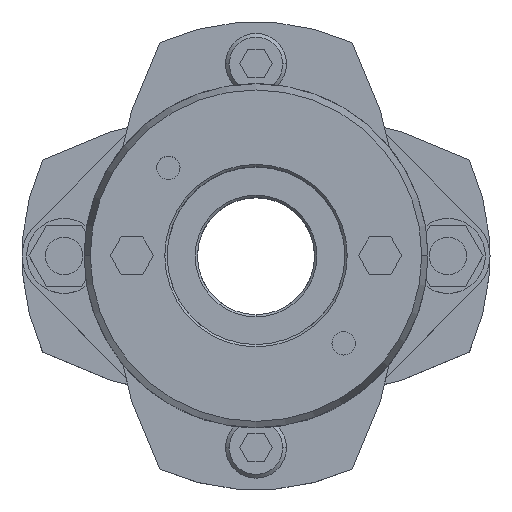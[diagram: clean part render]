
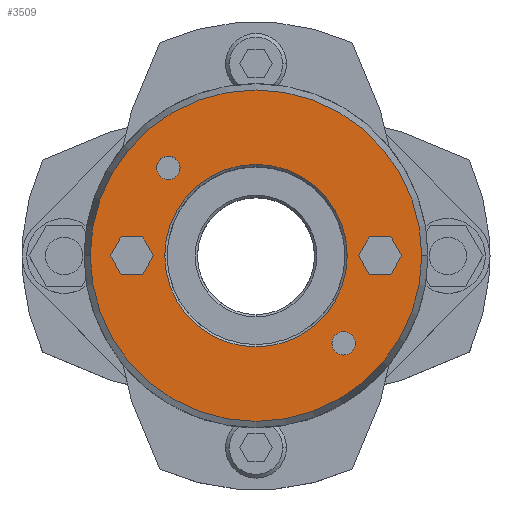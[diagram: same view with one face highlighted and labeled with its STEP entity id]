
A CAD part, top view. The second image highlights one B-rep face of the part: STEP entity #3509.
In plain terms, the highlighted planar face has unit normal (0, 0, 1).
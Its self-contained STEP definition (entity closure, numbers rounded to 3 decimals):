
#1471=CARTESIAN_POINT('',(-19.5,0.,42.0));
#1472=VERTEX_POINT('',#1471);
#1488=CARTESIAN_POINT('',(19.5,0.,42.0));
#1489=VERTEX_POINT('',#1488);
#1496=CARTESIAN_POINT('',(0.,0.,42.0));
#1497=DIRECTION('',(0.0,0.0,1.0));
#1498=DIRECTION('',(-1.0,0.0,0.0));
#1499=AXIS2_PLACEMENT_3D('',#1496,#1497,#1498);
#1500=CIRCLE('',#1499,19.5);
#1501=EDGE_CURVE('',#1489,#1472,#1500,.T.);
#1617=CARTESIAN_POINT('',(35.41,0.,42.0));
#1618=VERTEX_POINT('',#1617);
#1627=CARTESIAN_POINT('',(-35.41,0.,42.0));
#1628=VERTEX_POINT('',#1627);
#1629=CARTESIAN_POINT('',(0.,0.,42.0));
#1630=DIRECTION('',(0.0,0.0,-1.0));
#1631=DIRECTION('',(1.0,0.0,0.0));
#1632=AXIS2_PLACEMENT_3D('',#1629,#1630,#1631);
#1633=CIRCLE('',#1632,35.41);
#1634=EDGE_CURVE('',#1618,#1628,#1633,.T.);
#1803=CARTESIAN_POINT('',(-21.238,18.738,42.0));
#1804=VERTEX_POINT('',#1803);
#1820=CARTESIAN_POINT('',(-16.238,18.738,42.0));
#1821=VERTEX_POINT('',#1820);
#1828=CARTESIAN_POINT('',(-18.738,18.738,42.0));
#1829=DIRECTION('',(0.0,0.0,-1.0));
#1830=DIRECTION('',(-1.0,0.0,0.0));
#1831=AXIS2_PLACEMENT_3D('',#1828,#1829,#1830);
#1832=CIRCLE('',#1831,2.5);
#1833=EDGE_CURVE('',#1804,#1821,#1832,.T.);
#1845=CARTESIAN_POINT('',(16.238,-18.738,42.0));
#1846=VERTEX_POINT('',#1845);
#1862=CARTESIAN_POINT('',(21.238,-18.738,42.0));
#1863=VERTEX_POINT('',#1862);
#1870=CARTESIAN_POINT('',(18.738,-18.738,42.0));
#1871=DIRECTION('',(0.0,0.0,-1.0));
#1872=DIRECTION('',(-1.0,0.0,0.0));
#1873=AXIS2_PLACEMENT_3D('',#1870,#1871,#1872);
#1874=CIRCLE('',#1873,2.5);
#1875=EDGE_CURVE('',#1846,#1863,#1874,.T.);
#2635=CARTESIAN_POINT('',(21.881,0.,42.0));
#2636=VERTEX_POINT('',#2635);
#2643=CARTESIAN_POINT('',(24.191,-4.,42.0));
#2644=VERTEX_POINT('',#2643);
#2645=CARTESIAN_POINT('',(24.191,-4.,42.0));
#2646=DIRECTION('',(-0.5,0.866,0.0));
#2647=VECTOR('',#2646,4.619);
#2648=LINE('',#2645,#2647);
#2649=EDGE_CURVE('',#2644,#2636,#2648,.T.);
#2673=CARTESIAN_POINT('',(24.191,4.,42.0));
#2674=VERTEX_POINT('',#2673);
#2681=CARTESIAN_POINT('',(21.881,0.,42.0));
#2682=DIRECTION('',(0.5,0.866,0.0));
#2683=VECTOR('',#2682,4.619);
#2684=LINE('',#2681,#2683);
#2685=EDGE_CURVE('',#2636,#2674,#2684,.T.);
#2704=CARTESIAN_POINT('',(28.809,4.,42.0));
#2705=VERTEX_POINT('',#2704);
#2712=CARTESIAN_POINT('',(24.191,4.,42.0));
#2713=DIRECTION('',(1.0,0.0,0.0));
#2714=VECTOR('',#2713,4.619);
#2715=LINE('',#2712,#2714);
#2716=EDGE_CURVE('',#2674,#2705,#2715,.T.);
#2735=CARTESIAN_POINT('',(31.119,0.,42.0));
#2736=VERTEX_POINT('',#2735);
#2743=CARTESIAN_POINT('',(28.809,4.,42.0));
#2744=DIRECTION('',(0.5,-0.866,0.0));
#2745=VECTOR('',#2744,4.619);
#2746=LINE('',#2743,#2745);
#2747=EDGE_CURVE('',#2705,#2736,#2746,.T.);
#2766=CARTESIAN_POINT('',(28.809,-4.,42.0));
#2767=VERTEX_POINT('',#2766);
#2774=CARTESIAN_POINT('',(31.119,0.,42.0));
#2775=DIRECTION('',(-0.5,-0.866,0.0));
#2776=VECTOR('',#2775,4.619);
#2777=LINE('',#2774,#2776);
#2778=EDGE_CURVE('',#2736,#2767,#2777,.T.);
#2796=CARTESIAN_POINT('',(28.809,-4.,42.0));
#2797=DIRECTION('',(-1.0,0.0,0.0));
#2798=VECTOR('',#2797,4.619);
#2799=LINE('',#2796,#2798);
#2800=EDGE_CURVE('',#2767,#2644,#2799,.T.);
#2835=CARTESIAN_POINT('',(-31.119,0.,42.0));
#2836=VERTEX_POINT('',#2835);
#2843=CARTESIAN_POINT('',(-28.809,-4.,42.0));
#2844=VERTEX_POINT('',#2843);
#2845=CARTESIAN_POINT('',(-28.809,-4.,42.0));
#2846=DIRECTION('',(-0.5,0.866,0.0));
#2847=VECTOR('',#2846,4.619);
#2848=LINE('',#2845,#2847);
#2849=EDGE_CURVE('',#2844,#2836,#2848,.T.);
#2873=CARTESIAN_POINT('',(-28.809,4.,42.0));
#2874=VERTEX_POINT('',#2873);
#2881=CARTESIAN_POINT('',(-31.119,0.,42.0));
#2882=DIRECTION('',(0.5,0.866,0.0));
#2883=VECTOR('',#2882,4.619);
#2884=LINE('',#2881,#2883);
#2885=EDGE_CURVE('',#2836,#2874,#2884,.T.);
#2904=CARTESIAN_POINT('',(-24.191,4.,42.0));
#2905=VERTEX_POINT('',#2904);
#2912=CARTESIAN_POINT('',(-28.809,4.,42.0));
#2913=DIRECTION('',(1.0,0.0,0.0));
#2914=VECTOR('',#2913,4.619);
#2915=LINE('',#2912,#2914);
#2916=EDGE_CURVE('',#2874,#2905,#2915,.T.);
#2935=CARTESIAN_POINT('',(-21.881,0.,42.0));
#2936=VERTEX_POINT('',#2935);
#2943=CARTESIAN_POINT('',(-24.191,4.,42.0));
#2944=DIRECTION('',(0.5,-0.866,0.0));
#2945=VECTOR('',#2944,4.619);
#2946=LINE('',#2943,#2945);
#2947=EDGE_CURVE('',#2905,#2936,#2946,.T.);
#2966=CARTESIAN_POINT('',(-24.191,-4.,42.0));
#2967=VERTEX_POINT('',#2966);
#2974=CARTESIAN_POINT('',(-21.881,0.,42.0));
#2975=DIRECTION('',(-0.5,-0.866,0.0));
#2976=VECTOR('',#2975,4.619);
#2977=LINE('',#2974,#2976);
#2978=EDGE_CURVE('',#2936,#2967,#2977,.T.);
#2996=CARTESIAN_POINT('',(-24.191,-4.,42.0));
#2997=DIRECTION('',(-1.0,0.0,0.0));
#2998=VECTOR('',#2997,4.619);
#2999=LINE('',#2996,#2998);
#3000=EDGE_CURVE('',#2967,#2844,#2999,.T.);
#3026=CARTESIAN_POINT('',(18.738,-18.738,42.0));
#3027=DIRECTION('',(0.0,0.0,-1.0));
#3028=DIRECTION('',(-1.0,0.0,0.0));
#3029=AXIS2_PLACEMENT_3D('',#3026,#3027,#3028);
#3030=CIRCLE('',#3029,2.5);
#3031=EDGE_CURVE('',#1863,#1846,#3030,.T.);
#3060=CARTESIAN_POINT('',(-18.738,18.738,42.0));
#3061=DIRECTION('',(0.0,0.0,-1.0));
#3062=DIRECTION('',(-1.0,0.0,0.0));
#3063=AXIS2_PLACEMENT_3D('',#3060,#3061,#3062);
#3064=CIRCLE('',#3063,2.5);
#3065=EDGE_CURVE('',#1821,#1804,#3064,.T.);
#3456=CARTESIAN_POINT('',(0.,0.,42.0));
#3457=DIRECTION('',(0.0,0.0,-1.0));
#3458=DIRECTION('',(1.0,0.0,0.0));
#3459=AXIS2_PLACEMENT_3D('',#3456,#3457,#3458);
#3460=CIRCLE('',#3459,35.41);
#3461=EDGE_CURVE('',#1628,#1618,#3460,.T.);
#3466=CARTESIAN_POINT('',(-3.341,0.,42.0));
#3467=DIRECTION('',(0.0,0.0,1.0));
#3468=DIRECTION('',(-1.0,0.0,0.0));
#3469=AXIS2_PLACEMENT_3D('',#3466,#3467,#3468);
#3470=PLANE('',#3469);
#3471=ORIENTED_EDGE('',*,*,#3461,.F.);
#3472=ORIENTED_EDGE('',*,*,#1634,.F.);
#3473=EDGE_LOOP('',(#3471,#3472));
#3474=FACE_OUTER_BOUND('',#3473,.T.);
#3475=ORIENTED_EDGE('',*,*,#2649,.T.);
#3476=ORIENTED_EDGE('',*,*,#2685,.T.);
#3477=ORIENTED_EDGE('',*,*,#2716,.T.);
#3478=ORIENTED_EDGE('',*,*,#2747,.T.);
#3479=ORIENTED_EDGE('',*,*,#2778,.T.);
#3480=ORIENTED_EDGE('',*,*,#2800,.T.);
#3481=EDGE_LOOP('',(#3475,#3476,#3477,#3478,#3479,#3480));
#3482=FACE_BOUND('',#3481,.T.);
#3483=ORIENTED_EDGE('',*,*,#2849,.T.);
#3484=ORIENTED_EDGE('',*,*,#2885,.T.);
#3485=ORIENTED_EDGE('',*,*,#2916,.T.);
#3486=ORIENTED_EDGE('',*,*,#2947,.T.);
#3487=ORIENTED_EDGE('',*,*,#2978,.T.);
#3488=ORIENTED_EDGE('',*,*,#3000,.T.);
#3489=EDGE_LOOP('',(#3483,#3484,#3485,#3486,#3487,#3488));
#3490=FACE_BOUND('',#3489,.T.);
#3491=ORIENTED_EDGE('',*,*,#1875,.T.);
#3492=ORIENTED_EDGE('',*,*,#3031,.T.);
#3493=EDGE_LOOP('',(#3491,#3492));
#3494=FACE_BOUND('',#3493,.T.);
#3495=ORIENTED_EDGE('',*,*,#1833,.T.);
#3496=ORIENTED_EDGE('',*,*,#3065,.T.);
#3497=EDGE_LOOP('',(#3495,#3496));
#3498=FACE_BOUND('',#3497,.T.);
#3499=ORIENTED_EDGE('',*,*,#1501,.F.);
#3500=CARTESIAN_POINT('',(0.,0.,42.0));
#3501=DIRECTION('',(0.0,0.0,1.0));
#3502=DIRECTION('',(-1.0,0.0,0.0));
#3503=AXIS2_PLACEMENT_3D('',#3500,#3501,#3502);
#3504=CIRCLE('',#3503,19.5);
#3505=EDGE_CURVE('',#1472,#1489,#3504,.T.);
#3506=ORIENTED_EDGE('',*,*,#3505,.F.);
#3507=EDGE_LOOP('',(#3499,#3506));
#3508=FACE_BOUND('',#3507,.T.);
#3509=ADVANCED_FACE('',(#3474,#3482,#3490,#3494,#3498,#3508),#3470,.T.);
